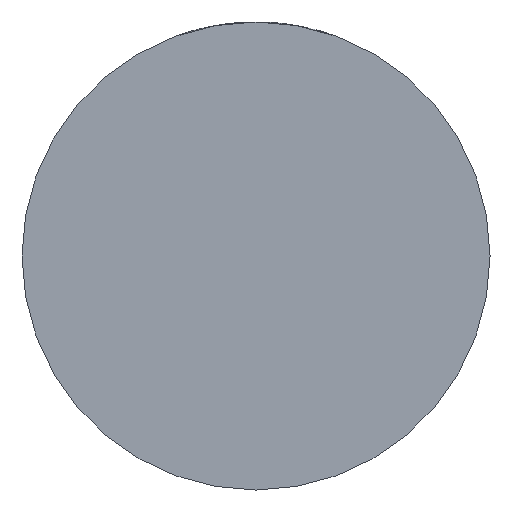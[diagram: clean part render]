
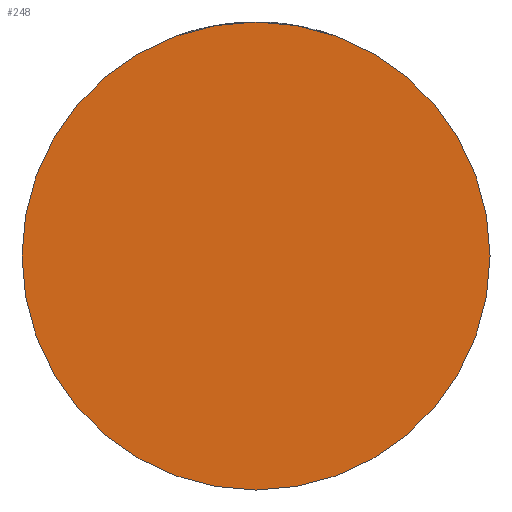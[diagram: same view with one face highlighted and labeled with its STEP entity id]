
A CAD part, front view. The second image highlights one B-rep face of the part: STEP entity #248.
In plain terms, the highlighted planar face has unit normal (0, -1, 0).
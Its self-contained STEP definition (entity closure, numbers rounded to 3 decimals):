
#61 = CARTESIAN_POINT ( 'NONE',  ( 0., -29., 0. ) ) ;
#155 = AXIS2_PLACEMENT_3D ( 'NONE', #61, #1058, #3084 ) ;
#248 = ADVANCED_FACE ( 'NONE', ( #3063 ), #4467, .T. ) ;
#286 = DIRECTION ( 'NONE',  ( 0., -1., 0. ) ) ;
#526 = EDGE_CURVE ( 'NONE', #2477, #4217, #4431, .T. ) ;
#551 = DIRECTION ( 'NONE',  ( 0., -1., 0. ) ) ;
#886 = CARTESIAN_POINT ( 'NONE',  ( 0., -29., 0. ) ) ;
#1058 = DIRECTION ( 'NONE',  ( 0., -1., 0. ) ) ;
#1364 = CARTESIAN_POINT ( 'NONE',  ( 0., -29., 0. ) ) ;
#2421 = AXIS2_PLACEMENT_3D ( 'NONE', #886, #551, #2584 ) ;
#2477 = VERTEX_POINT ( 'NONE', #4376 ) ;
#2584 = DIRECTION ( 'NONE',  ( 1., 0., 0. ) ) ;
#2610 = CARTESIAN_POINT ( 'NONE',  ( 44., -29., 0. ) ) ;
#2726 = DIRECTION ( 'NONE',  ( 1., 0., 0. ) ) ;
#2778 = AXIS2_PLACEMENT_3D ( 'NONE', #1364, #286, #2726 ) ;
#3063 = FACE_OUTER_BOUND ( 'NONE', #3535, .T. ) ;
#3084 = DIRECTION ( 'NONE',  ( 1., 0., 0. ) ) ;
#3279 = ORIENTED_EDGE ( 'NONE', *, *, #526, .T. ) ;
#3455 = EDGE_CURVE ( 'NONE', #4217, #2477, #4345, .T. ) ;
#3535 = EDGE_LOOP ( 'NONE', ( #3279, #4289 ) ) ;
#4217 = VERTEX_POINT ( 'NONE', #2610 ) ;
#4289 = ORIENTED_EDGE ( 'NONE', *, *, #3455, .T. ) ;
#4345 = CIRCLE ( 'NONE', #155, 44. ) ;
#4376 = CARTESIAN_POINT ( 'NONE',  ( -44., -29., 0. ) ) ;
#4431 = CIRCLE ( 'NONE', #2421, 44. ) ;
#4467 = PLANE ( 'NONE',  #2778 ) ;
